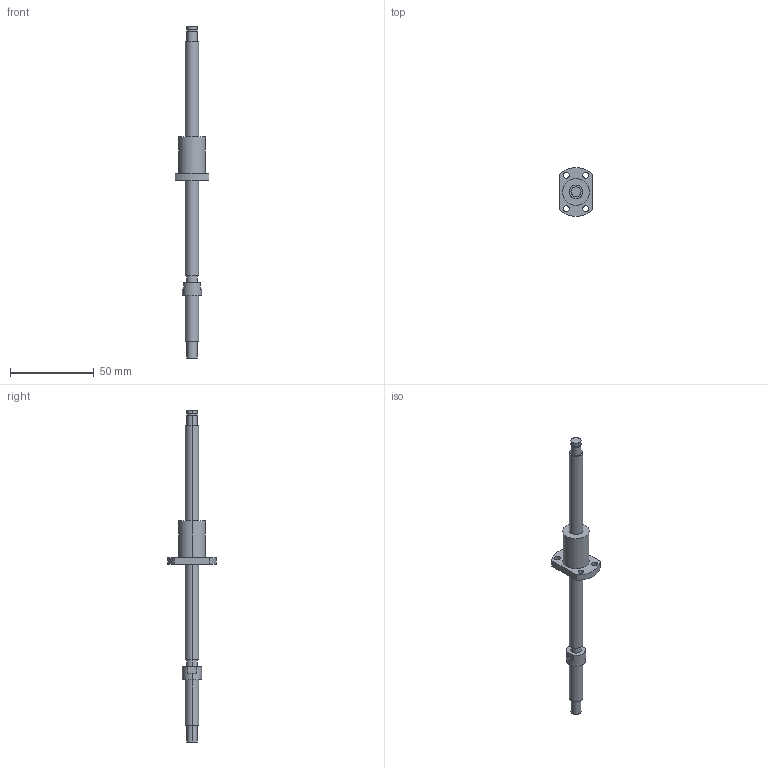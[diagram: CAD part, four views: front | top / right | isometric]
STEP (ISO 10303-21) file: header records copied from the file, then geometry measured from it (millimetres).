
FILE_DESCRIPTION((''),'2;1');
FILE_NAME('R8-2T3-FSI-140-198','2008-03-28T',('mahdi'),(''),'PRO/ENGINEER BY PARAMETRIC TECHNOLOGY CORPORATION, 2005070','PRO/ENGINEER BY PARAMETRIC TECHNOLOGY CORPORATION, 2005070','');
FILE_SCHEMA(('CONFIG_CONTROL_DESIGN'));
Length unit declared in the file: millimetre
Products named in the file (1): R8-2T3-FSI-140-198
Bounding box: 20 x 28.9 x 198 mm (x, y, z)
Volume: 14952.5 mm3; surface area: 7026 mm2
Topology: 1 solids, 1 shells, 48 faces, 108 edges, 72 vertices
Faces by surface type: cylinder 30, plane 18
Entity records: 1430 total; most frequent: DIRECTION 268, CARTESIAN_POINT 228, ORIENTED_EDGE 216, AXIS2_PLACEMENT_3D 112, EDGE_CURVE 108, VERTEX_POINT 72, EDGE_LOOP 66, CIRCLE 64
